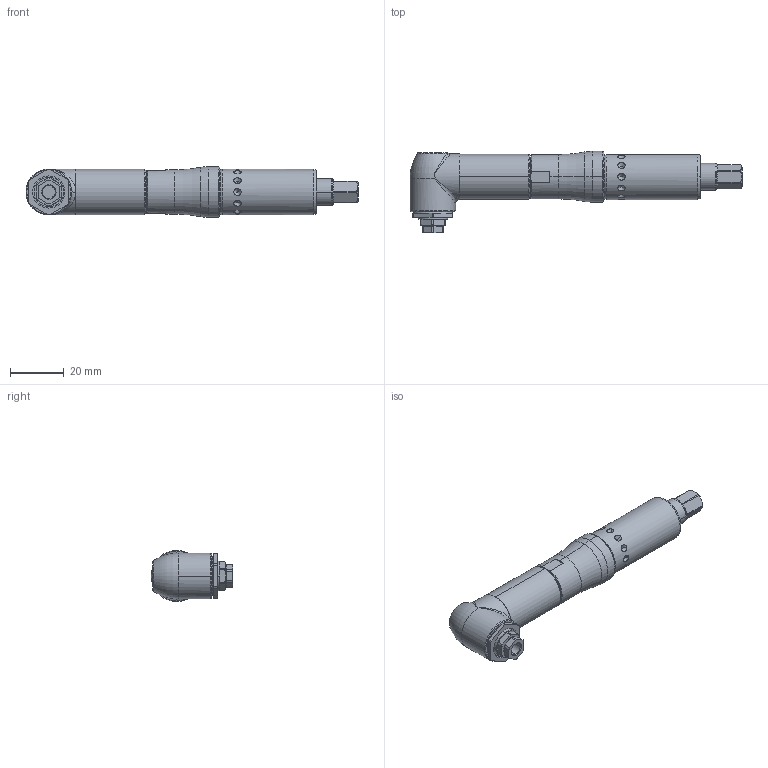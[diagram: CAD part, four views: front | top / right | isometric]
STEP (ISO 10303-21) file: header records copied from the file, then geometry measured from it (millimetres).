
FILE_DESCRIPTION((''),'2;1');
FILE_NAME('90_CPT_QR','2008-10-27T',('sdanet'),(''),'PRO/ENGINEER BY PARAMETRIC TECHNOLOGY CORPORATION, 2008250','PRO/ENGINEER BY PARAMETRIC TECHNOLOGY CORPORATION, 2008250','');
FILE_SCHEMA(('CONFIG_CONTROL_DESIGN'));
Length unit declared in the file: millimetre
Products named in the file (1): 90_CPT_QR
Bounding box: 123.58 x 30.35 x 19 mm (x, y, z)
Volume: 19985 mm3; surface area: 19183 mm2
Topology: 3 solids, 11 shells, 377 faces, 948 edges, 576 vertices
Faces by surface type: cylinder 120, plane 95, cone 95, torus 34, sphere 24, bspline 8, revolution 1
Entity records: 12179 total; most frequent: CARTESIAN_POINT 3112, DIRECTION 2014, ORIENTED_EDGE 1802, EDGE_CURVE 916, AXIS2_PLACEMENT_3D 831, VERTEX_POINT 576, CIRCLE 462, EDGE_LOOP 425
